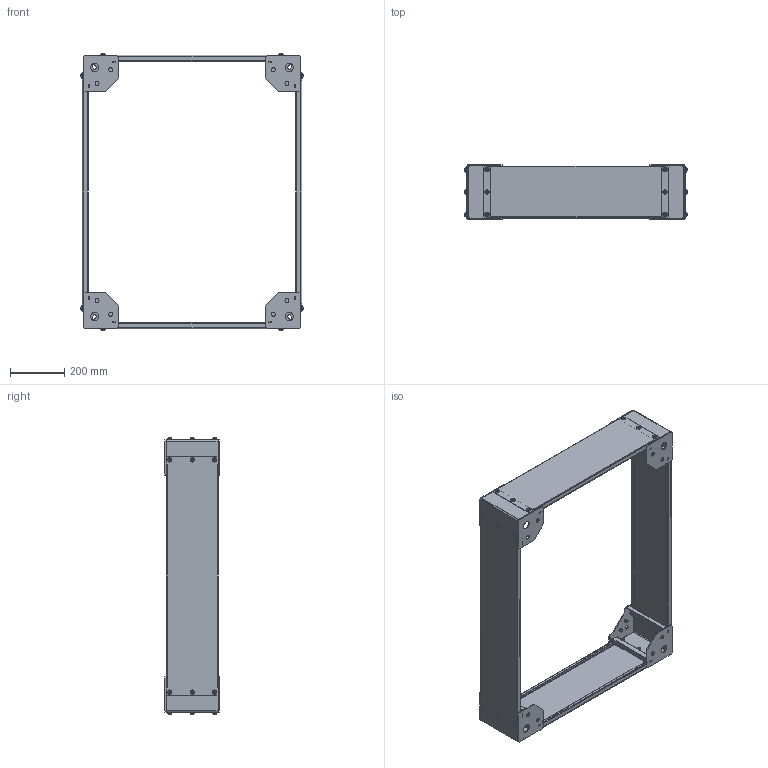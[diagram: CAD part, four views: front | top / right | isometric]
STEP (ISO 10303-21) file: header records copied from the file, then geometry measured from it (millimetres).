
FILE_DESCRIPTION (( 'STEP AP203' ), '1' );
FILE_NAME ('ZA 100.80 EQH 捘 絊膰錪.STEP', '2024-05-02T12:29:52', ( '' ), ( '' ), 'SwSTEP 2.0', 'SolidWorks 2022', '' );
FILE_SCHEMA (( 'CONFIG_CONTROL_DESIGN' ));
Length unit declared in the file: millimetre
Products named in the file (10): ZA EQ 00.003 (Д199) Угловой элемент; Заклепка вытяжная резьбовая рифленая оц. М8_Гайка М8 вытяжная - S3.0; ZA EQ (Д199) СБ Угол цоколя; ZA 60 EQ 00.001 (Д199) Панель цоколя_ZA 80 EQ 00.001 (Д199) Панель цоколя; Винт М8х16 ISO 7380 c фланцем (S 8.16 MX)_S 8.16 MX; ZA EQ 00.002 Пластина верхняя_100; ZA 60 EQ 00.001 (Д199) Панель цоколя_ZA 100 EQ 00.001 Панель цоколя; ZA 100.80 EQH СБ Цоколь; ZA EQ 00.001 Пластина нижняя_100; Шайба 8 стопорная DIN 6798
Assembly tree (67 placements, depth 3):
  ZA 100.80 EQH СБ Цоколь
    ZA EQ (Д199) СБ Угол цоколя  x4
      ZA EQ 00.001 Пластина нижняя_100
      ZA EQ 00.002 Пластина верхняя_100
      ZA EQ 00.003 (Д199) Угловой элемент
      Заклепка вытяжная резьбовая рифленая оц. М8_Гайка М8 вытяжная - S3.0
    ZA 60 EQ 00.001 (Д199) Панель цоколя_ZA 80 EQ 00.001 (Д199) Панель цоколя  x2
    ZA 60 EQ 00.001 (Д199) Панель цоколя_ZA 100 EQ 00.001 Панель цоколя  x2
    Винт М8х16 ISO 7380 c фланцем (S 8.16 MX)_S 8.16 MX  x24
    Шайба 8 стопорная DIN 6798  x24
Bounding box: 817.54 x 201.3 x 1017.54 mm (x, y, z)
Volume: 2707656.5 mm3; surface area: 2317016.1 mm2
Topology: 72 solids, 120 shells, 4616 faces, 12568 edges, 8320 vertices
Faces by surface type: bspline 1440, cylinder 1408, plane 1336, torus 224, cone 160, sphere 48
Entity records: 17765 total; most frequent: CARTESIAN_POINT 3653, ORIENTED_EDGE 2454, DIRECTION 2312, EDGE_CURVE 1230, VERTEX_POINT 800, LINE 790, VECTOR 790, AXIS2_PLACEMENT_3D 761
